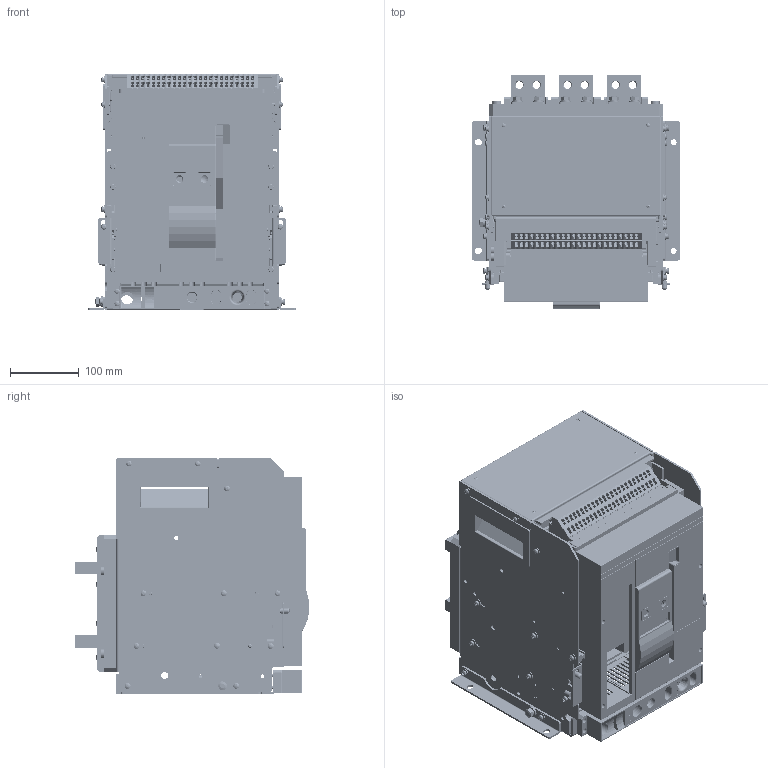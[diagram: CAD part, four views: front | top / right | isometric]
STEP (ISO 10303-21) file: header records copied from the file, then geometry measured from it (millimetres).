
FILE_DESCRIPTION (( 'STEP AP203' ), '1' );
FILE_NAME ('ACB MGW3-1600 3P 3D Drawing.STEP', '2024-06-17T14:32:29', ( '' ), ( '' ), 'SwSTEP 2.0', 'SolidWorks 2022', '' );
FILE_SCHEMA (( 'CONFIG_CONTROL_DESIGN' ));
Length unit declared in the file: millimetre
Products named in the file (251): ACB MGW3-1600 3P  3D Drawing.sldasm-Part-143; ACB MGW3-1600 3P  3D Drawing.sldasm-Part-63; ACB MGW3-1600 3P  3D Drawing.sldasm-Part-39; ACB MGW3-1600 3P  3D Drawing.sldasm-Part-220; ACB MGW3-1600 3P  3D Drawing.sldasm-Part-234; ACB MGW3-1600 3P  3D Drawing.sldasm-Part-189; ACB MGW3-1600 3P  3D Drawing.sldasm-Part-198; ACB MGW3-1600 3P  3D Drawing.sldasm-Part-213; ACB MGW3-1600 3P  3D Drawing.sldasm-Part-28; ACB MGW3-1600 3P  3D Drawing.sldasm-Part-42; ACB MGW3-1600 3P  3D Drawing.sldasm-Part-96; ACB MGW3-1600 3P  3D Drawing.sldasm-Part-16; ACB MGW3-1600 3P  3D Drawing.sldasm-Part-35; ACB MGW3-1600 3P  3D Drawing.sldasm-Part-56; ACB MGW3-1600 3P  3D Drawing.sldasm-Part-73; ACB MGW3-1600 3P  3D Drawing.sldasm-Part-202; ACB MGW3-1600 3P  3D Drawing.sldasm-Part-121; ACB MGW3-1600 3P  3D Drawing.sldasm-Part-9; ACB MGW3-1600 3P  3D Drawing.sldasm-Part-57; ACB MGW3-1600 3P  3D Drawing.sldasm-Part-117; ACB MGW3-1600 3P  3D Drawing.sldasm-Part-247; ACB MGW3-1600 3P  3D Drawing.sldasm-Part-132; ACB MGW3-1600 3P  3D Drawing.sldasm-Part-36; ACB MGW3-1600 3P  3D Drawing.sldasm-Part-192; ACB MGW3-1600 3P  3D Drawing.sldasm-Part-134; ACB MGW3-1600 3P  3D Drawing.sldasm-Part-146; ACB MGW3-1600 3P  3D Drawing.sldasm-Part-47; ACB MGW3-1600 3P  3D Drawing.sldasm-Part-246; ACB MGW3-1600 3P  3D Drawing.sldasm-Part-68; ACB MGW3-1600 3P  3D Drawing.sldasm-Part-178; ACB MGW3-1600 3P  3D Drawing.sldasm-Part-153; ACB MGW3-1600 3P  3D Drawing.sldasm-Part-205; ACB MGW3-1600 3P  3D Drawing.sldasm-Part-51; ACB MGW3-1600 3P  3D Drawing.sldasm-Part-215; ACB MGW3-1600 3P  3D Drawing.sldasm-Part-3; ACB MGW3-1600 3P  3D Drawing.sldasm-Part-242; ACB MGW3-1600 3P  3D Drawing.sldasm-Part-210; ACB MGW3-1600 3P  3D Drawing.sldasm-Part-41; ACB MGW3-1600 3P  3D Drawing.sldasm-Part-172; ACB MGW3-1600 3P  3D Drawing.sldasm-Part-137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
Assembly tree (250 placements, depth 2):
  ACB MGW3-1600 3P  3D Drawing
    ACB MGW3-1600 3P  3D Drawing.sldasm-Part-1
    ACB MGW3-1600 3P  3D Drawing.sldasm-Part-2
    ACB MGW3-1600 3P  3D Drawing.sldasm-Part-3
    ACB MGW3-1600 3P  3D Drawing.sldasm-Part-4
    ACB MGW3-1600 3P  3D Drawing.sldasm-Part-5
    ACB MGW3-1600 3P  3D Drawing.sldasm-Part-6
    ACB MGW3-1600 3P  3D Drawing.sldasm-Part-7
    ACB MGW3-1600 3P  3D Drawing.sldasm-Part-8
    ACB MGW3-1600 3P  3D Drawing.sldasm-Part-9
    ACB MGW3-1600 3P  3D Drawing.sldasm-Part-10
    ACB MGW3-1600 3P  3D Drawing.sldasm-Part-11
    ACB MGW3-1600 3P  3D Drawing.sldasm-Part-12
    ACB MGW3-1600 3P  3D Drawing.sldasm-Part-13
    ACB MGW3-1600 3P  3D Drawing.sldasm-Part-14
    ACB MGW3-1600 3P  3D Drawing.sldasm-Part-15
    ACB MGW3-1600 3P  3D Drawing.sldasm-Part-16
    ACB MGW3-1600 3P  3D Drawing.sldasm-Part-17
    ACB MGW3-1600 3P  3D Drawing.sldasm-Part-18
    ACB MGW3-1600 3P  3D Drawing.sldasm-Part-19
    ACB MGW3-1600 3P  3D Drawing.sldasm-Part-20
    ACB MGW3-1600 3P  3D Drawing.sldasm-Part-21
    ACB MGW3-1600 3P  3D Drawing.sldasm-Part-22
    ACB MGW3-1600 3P  3D Drawing.sldasm-Part-23
    ACB MGW3-1600 3P  3D Drawing.sldasm-Part-24
    ACB MGW3-1600 3P  3D Drawing.sldasm-Part-25
    ACB MGW3-1600 3P  3D Drawing.sldasm-Part-26
    ACB MGW3-1600 3P  3D Drawing.sldasm-Part-27
    ACB MGW3-1600 3P  3D Drawing.sldasm-Part-28
    ACB MGW3-1600 3P  3D Drawing.sldasm-Part-29
    ACB MGW3-1600 3P  3D Drawing.sldasm-Part-30
    ACB MGW3-1600 3P  3D Drawing.sldasm-Part-31
    ACB MGW3-1600 3P  3D Drawing.sldasm-Part-32
    ACB MGW3-1600 3P  3D Drawing.sldasm-Part-33
    ACB MGW3-1600 3P  3D Drawing.sldasm-Part-34
    ACB MGW3-1600 3P  3D Drawing.sldasm-Part-35
    ACB MGW3-1600 3P  3D Drawing.sldasm-Part-36
    ACB MGW3-1600 3P  3D Drawing.sldasm-Part-37
    ACB MGW3-1600 3P  3D Drawing.sldasm-Part-38
    ACB MGW3-1600 3P  3D Drawing.sldasm-Part-39
    ACB MGW3-1600 3P  3D Drawing.sldasm-Part-40
    ACB MGW3-1600 3P  3D Drawing.sldasm-Part-41
    ACB MGW3-1600 3P  3D Drawing.sldasm-Part-42
    ACB MGW3-1600 3P  3D Drawing.sldasm-Part-43
    ACB MGW3-1600 3P  3D Drawing.sldasm-Part-44
    ACB MGW3-1600 3P  3D Drawing.sldasm-Part-45
    ACB MGW3-1600 3P  3D Drawing.sldasm-Part-46
    ACB MGW3-1600 3P  3D Drawing.sldasm-Part-47
    ACB MGW3-1600 3P  3D Drawing.sldasm-Part-48
    ACB MGW3-1600 3P  3D Drawing.sldasm-Part-49
    ACB MGW3-1600 3P  3D Drawing.sldasm-Part-50
    ACB MGW3-1600 3P  3D Drawing.sldasm-Part-51
    ACB MGW3-1600 3P  3D Drawing.sldasm-Part-52
    ACB MGW3-1600 3P  3D Drawing.sldasm-Part-53
    ACB MGW3-1600 3P  3D Drawing.sldasm-Part-54
    ACB MGW3-1600 3P  3D Drawing.sldasm-Part-55
    ACB MGW3-1600 3P  3D Drawing.sldasm-Part-56
    ACB MGW3-1600 3P  3D Drawing.sldasm-Part-57
    ACB MGW3-1600 3P  3D Drawing.sldasm-Part-58
    ACB MGW3-1600 3P  3D Drawing.sldasm-Part-59
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Bounding box: 302 x 341.2 x 344.45 mm (x, y, z)
Volume: 6085706.7 mm3; surface area: 2297975.8 mm2
Topology: 250 solids, 330 shells, 21576 faces, 58013 edges, 37286 vertices
Faces by surface type: plane 12959, cylinder 6346, cone 1145, torus 704, bspline 264, sphere 158
Entity records: 718328 total; most frequent: CARTESIAN_POINT 147893, ORIENTED_EDGE 115698, DIRECTION 110710, EDGE_CURVE 57849, LINE 40016, VECTOR 40016, VERTEX_POINT 37286, AXIS2_PLACEMENT_3D 35347
